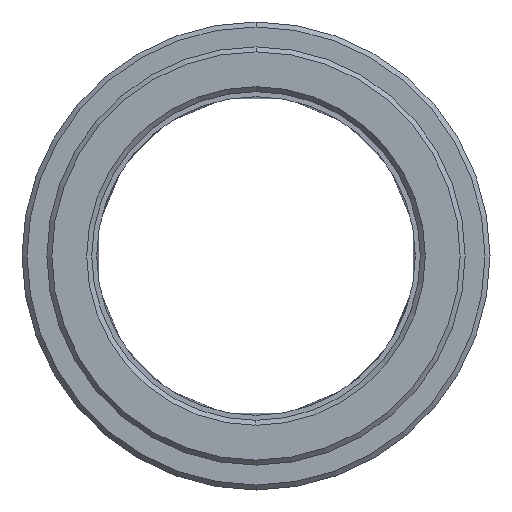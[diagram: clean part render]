
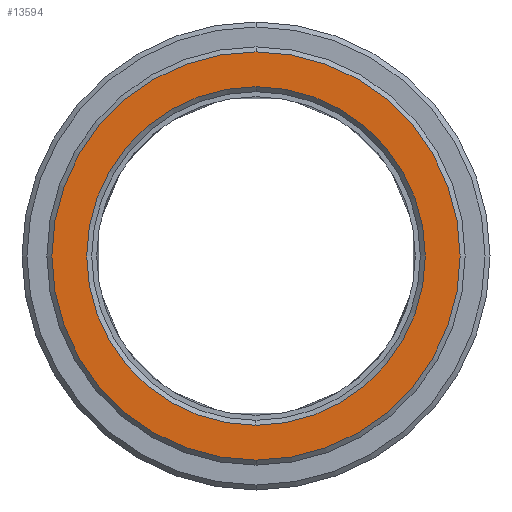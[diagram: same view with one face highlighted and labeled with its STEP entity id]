
A CAD part, left-side view. The second image highlights one B-rep face of the part: STEP entity #13594.
In plain terms, the highlighted planar face has unit normal (-1, 0, 0).
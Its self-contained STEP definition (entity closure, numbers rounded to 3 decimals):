
#5466=CARTESIAN_POINT('',(-8.,0.,0.));
#5467=DIRECTION('',(1.,0.,0.));
#5468=DIRECTION('',(0.,0.,1.));
#5469=AXIS2_PLACEMENT_3D('',#5466,#5467,#5468);
#5471=CARTESIAN_POINT('',(-8.,0.,0.));
#5472=DIRECTION('',(1.,0.,0.));
#5473=DIRECTION('',(0.,0.,-1.));
#5474=AXIS2_PLACEMENT_3D('',#5471,#5472,#5473);
#5476=CARTESIAN_POINT('',(-8.,0.,
0.));
#5477=DIRECTION('',(1.,0.,0.));
#5478=DIRECTION('',(0.,0.,1.));
#5479=AXIS2_PLACEMENT_3D('',#5476,#5477,#5478);
#5481=CARTESIAN_POINT('',(-8.,0.,
0.));
#5482=DIRECTION('',(1.,0.,0.));
#5483=DIRECTION('',(0.,0.,-1.));
#5484=AXIS2_PLACEMENT_3D('',#5481,#5482,#5483);
#11596=CARTESIAN_POINT('',(-8.,0.,17.));
#11597=CARTESIAN_POINT('',(-8.,0.,-17.));
#11598=VERTEX_POINT('',#11596);
#11599=VERTEX_POINT('',#11597);
#11604=CARTESIAN_POINT('',(-8.,0.,20.5));
#11605=CARTESIAN_POINT('',(-8.,0.,-20.5));
#11606=VERTEX_POINT('',#11604);
#11607=VERTEX_POINT('',#11605);
#13578=CARTESIAN_POINT('',(-8.,0.,0.));
#13579=DIRECTION('',(1.,0.,0.));
#13580=DIRECTION('',(0.,0.,1.));
#13581=AXIS2_PLACEMENT_3D('',#13578,#13579,#13580);
#13582=PLANE('',#13581);
#13584=ORIENTED_EDGE('',*,*,#13583,.T.);
#13586=ORIENTED_EDGE('',*,*,#13585,.T.);
#13587=EDGE_LOOP('',(#13584,#13586));
#13588=FACE_OUTER_BOUND('',#13587,.F.);
#13590=ORIENTED_EDGE('',*,*,#13589,.F.);
#13591=ORIENTED_EDGE('',*,*,#13568,.F.);
#13592=EDGE_LOOP('',(#13590,#13591));
#13593=FACE_BOUND('',#13592,.F.);
#13594=ADVANCED_FACE('',(#13588,#13593),#13582,.F.);
#5470=CIRCLE('',#5469,20.5);
#5475=CIRCLE('',#5474,20.5);
#5480=CIRCLE('',#5479,17.);
#5485=CIRCLE('',#5484,17.);
#13568=EDGE_CURVE('',#11599,#11598,#5485,.T.);
#13583=EDGE_CURVE('',#11606,#11607,#5470,.T.);
#13585=EDGE_CURVE('',#11607,#11606,#5475,.T.);
#13589=EDGE_CURVE('',#11598,#11599,#5480,.T.);
